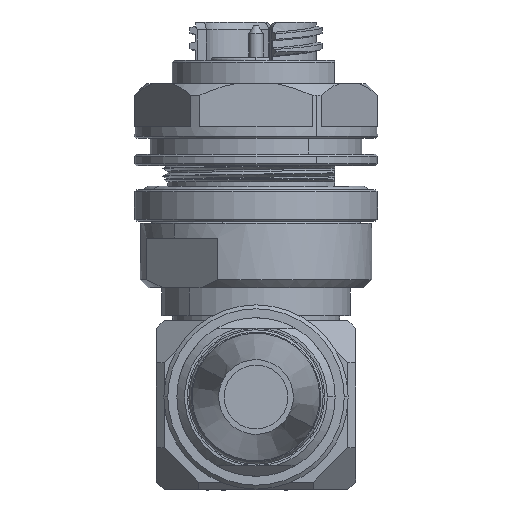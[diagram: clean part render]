
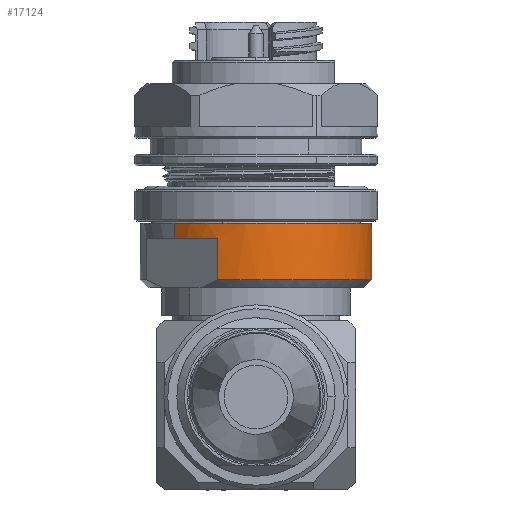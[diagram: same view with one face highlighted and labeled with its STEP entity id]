
A CAD part, front view. The second image highlights one B-rep face of the part: STEP entity #17124.
In plain terms, the highlighted cylindrical face has radius 14.783 mm (diameter 29.566 mm), a partial arc.
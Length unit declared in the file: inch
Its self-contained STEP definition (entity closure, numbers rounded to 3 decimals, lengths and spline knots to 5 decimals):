
#476 = VERTEX_POINT ( 'NONE', #17053 ) ;
#1047 = DIRECTION ( 'NONE',  ( 0.707, 0.707, 0. ) ) ;
#1422 = LINE ( 'NONE', #20973, #20603 ) ;
#1524 = EDGE_CURVE ( 'NONE', #9251, #20640, #24132, .T. ) ;
#2058 = LINE ( 'NONE', #5540, #8930 ) ;
#2365 = CARTESIAN_POINT ( 'NONE',  ( 0., 0., -1.295 ) ) ;
#2707 = ORIENTED_EDGE ( 'NONE', *, *, #10477, .T. ) ;
#2977 = CYLINDRICAL_SURFACE ( 'NONE', #3753, 0.582 ) ;
#3109 = EDGE_CURVE ( 'NONE', #7831, #17256, #24524, .T. ) ;
#3129 = ORIENTED_EDGE ( 'NONE', *, *, #24677, .T. ) ;
#3753 = AXIS2_PLACEMENT_3D ( 'NONE', #24306, #20368, #14427 ) ;
#4391 = CARTESIAN_POINT ( 'NONE',  ( 0.41154, 0.41154, -1.01 ) ) ;
#4448 = ORIENTED_EDGE ( 'NONE', *, *, #17581, .F. ) ;
#4640 = DIRECTION ( 'NONE',  ( 0., 0., -1. ) ) ;
#4681 = AXIS2_PLACEMENT_3D ( 'NONE', #22376, #23091, #1047 ) ;
#4947 = CARTESIAN_POINT ( 'NONE',  ( -0.41154, -0.41154, -1.085 ) ) ;
#4965 = DIRECTION ( 'NONE',  ( 0., 0., -1. ) ) ;
#4998 = AXIS2_PLACEMENT_3D ( 'NONE', #12219, #19937, #10325 ) ;
#5540 = CARTESIAN_POINT ( 'NONE',  ( -0.41154, -0.41154, -1.01 ) ) ;
#6051 = EDGE_CURVE ( 'NONE', #11598, #476, #1422, .T. ) ;
#7050 = DIRECTION ( 'NONE',  ( 0., 0., 1. ) ) ;
#7405 = ORIENTED_EDGE ( 'NONE', *, *, #1524, .T. ) ;
#7831 = VERTEX_POINT ( 'NONE', #12187 ) ;
#8611 = FACE_OUTER_BOUND ( 'NONE', #9617, .T. ) ;
#8699 = CARTESIAN_POINT ( 'NONE',  ( -0.19361, -0.54885, -1.01 ) ) ;
#8930 = VECTOR ( 'NONE', #24807, 39.37008 ) ;
#9081 = CIRCLE ( 'NONE', #11096, 0.582 ) ;
#9251 = VERTEX_POINT ( 'NONE', #9256 ) ;
#9256 = CARTESIAN_POINT ( 'NONE',  ( 0.41154, 0.41154, -1.01 ) ) ;
#9617 = EDGE_LOOP ( 'NONE', ( #7405, #2707, #4448, #12309, #3129, #10990, #12048, #12550 ) ) ;
#10325 = DIRECTION ( 'NONE',  ( -0.707, -0.707, 0. ) ) ;
#10477 = EDGE_CURVE ( 'NONE', #20640, #11859, #2058, .T. ) ;
#10951 = DIRECTION ( 'NONE',  ( 0.707, -0.707, 0. ) ) ;
#10990 = ORIENTED_EDGE ( 'NONE', *, *, #6051, .F. ) ;
#11096 = AXIS2_PLACEMENT_3D ( 'NONE', #20560, #4965, #10951 ) ;
#11598 = VERTEX_POINT ( 'NONE', #19177 ) ;
#11859 = VERTEX_POINT ( 'NONE', #4947 ) ;
#12048 = ORIENTED_EDGE ( 'NONE', *, *, #17782, .F. ) ;
#12187 = CARTESIAN_POINT ( 'NONE',  ( -0.19361, -0.54885, -1.295 ) ) ;
#12219 = CARTESIAN_POINT ( 'NONE',  ( 0., 0., -1.085 ) ) ;
#12309 = ORIENTED_EDGE ( 'NONE', *, *, #3109, .F. ) ;
#12550 = ORIENTED_EDGE ( 'NONE', *, *, #15411, .F. ) ;
#14427 = DIRECTION ( 'NONE',  ( 0.707, 0.707, 0. ) ) ;
#14780 = DIRECTION ( 'NONE',  ( 0., 0., 1. ) ) ;
#14797 = CARTESIAN_POINT ( 'NONE',  ( -0.19361, -0.54885, -1.085 ) ) ;
#15411 = EDGE_CURVE ( 'NONE', #9251, #20702, #21636, .T. ) ;
#16428 = DIRECTION ( 'NONE',  ( 0.707, 0.707, 0. ) ) ;
#16479 = CARTESIAN_POINT ( 'NONE',  ( 0.41154, 0.41154, -1.085 ) ) ;
#16933 = DIRECTION ( 'NONE',  ( 0., 0., -1. ) ) ;
#17053 = CARTESIAN_POINT ( 'NONE',  ( 0.54885, 0.19361, -1.295 ) ) ;
#17093 = AXIS2_PLACEMENT_3D ( 'NONE', #2365, #14780, #16428 ) ;
#17124 = ADVANCED_FACE ( 'NONE', ( #8611 ), #2977, .T. ) ;
#17256 = VERTEX_POINT ( 'NONE', #14797 ) ;
#17581 = EDGE_CURVE ( 'NONE', #17256, #11859, #24037, .T. ) ;
#17782 = EDGE_CURVE ( 'NONE', #20702, #11598, #9081, .T. ) ;
#18313 = VECTOR ( 'NONE', #4640, 39.37008 ) ;
#19177 = CARTESIAN_POINT ( 'NONE',  ( 0.54885, 0.19361, -1.085 ) ) ;
#19937 = DIRECTION ( 'NONE',  ( 0., 0., -1. ) ) ;
#20368 = DIRECTION ( 'NONE',  ( 0., 0., -1. ) ) ;
#20560 = CARTESIAN_POINT ( 'NONE',  ( 0., 0., -1.085 ) ) ;
#20603 = VECTOR ( 'NONE', #16933, 39.37008 ) ;
#20640 = VERTEX_POINT ( 'NONE', #21668 ) ;
#20702 = VERTEX_POINT ( 'NONE', #16479 ) ;
#20973 = CARTESIAN_POINT ( 'NONE',  ( 0.54885, 0.19361, -1.01 ) ) ;
#21636 = LINE ( 'NONE', #4391, #18313 ) ;
#21668 = CARTESIAN_POINT ( 'NONE',  ( -0.41154, -0.41154, -1.01 ) ) ;
#22376 = CARTESIAN_POINT ( 'NONE',  ( 0., 0., -1.01 ) ) ;
#23091 = DIRECTION ( 'NONE',  ( 0., 0., -1. ) ) ;
#24037 = CIRCLE ( 'NONE', #4998, 0.582 ) ;
#24132 = CIRCLE ( 'NONE', #4681, 0.582 ) ;
#24147 = VECTOR ( 'NONE', #7050, 39.37008 ) ;
#24306 = CARTESIAN_POINT ( 'NONE',  ( 0., 0., -1.01 ) ) ;
#24524 = LINE ( 'NONE', #8699, #24147 ) ;
#24677 = EDGE_CURVE ( 'NONE', #7831, #476, #24785, .T. ) ;
#24785 = CIRCLE ( 'NONE', #17093, 0.582 ) ;
#24807 = DIRECTION ( 'NONE',  ( 0., 0., -1. ) ) ;
